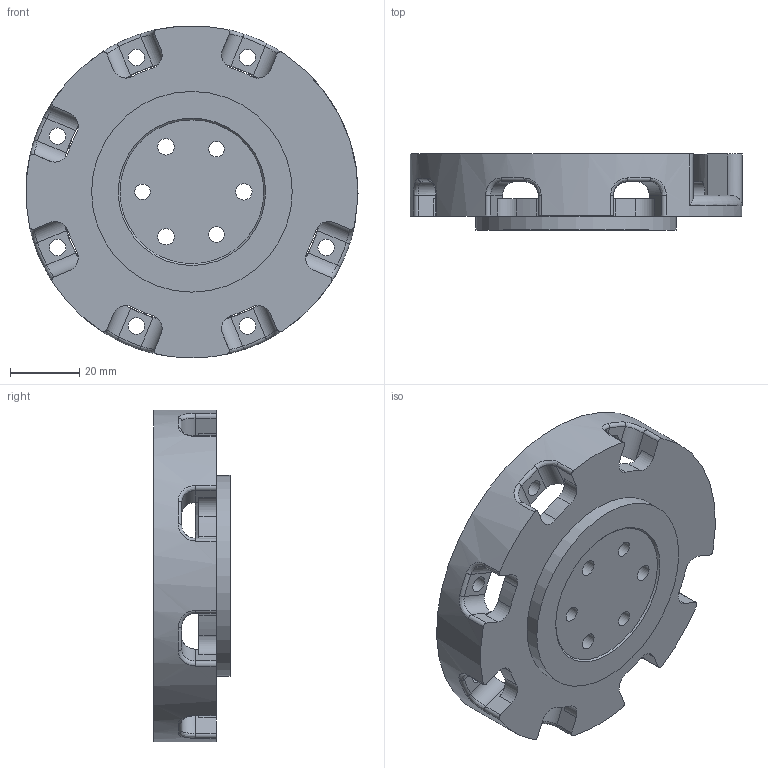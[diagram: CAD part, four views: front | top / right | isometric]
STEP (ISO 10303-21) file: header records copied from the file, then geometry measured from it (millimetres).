
FILE_DESCRIPTION(/* description */ (''),/* implementation_level */ '2;1');
FILE_NAME(/* name */ 'leg_motorPlate3 v1.step',/* time_stamp */ '2025-10-21T12:10:30-07:00',/* author */ (''),/* organization */ (''),/* preprocessor_version */ 'ST-DEVELOPER v20.1',/* originating_system */ 'Autodesk Translation Framework v14.17.0.0',/* authorisation */ '');
FILE_SCHEMA (('AUTOMOTIVE_DESIGN { 1 0 10303 214 3 1 1 }'));
Length unit declared in the file: millimetre
Products named in the file (1): leg_motorPlate3
Bounding box: 95.95 x 22 x 95.88 mm (x, y, z)
Volume: 65243 mm3; surface area: 24245.2 mm2
Topology: 1 solids, 1 shells, 122 faces, 365 edges, 233 vertices
Faces by surface type: cylinder 67, plane 29, bspline 14, torus 8, cone 4
Full cylindrical faces by diameter (mm): 4.5 x3, 4.75 x10, 58 x1, 76 x1, 96 x1
Entity records: 7239 total; most frequent: CARTESIAN_POINT 3845, ORIENTED_EDGE 730, DIRECTION 704, EDGE_CURVE 365, AXIS2_PLACEMENT_3D 274, VERTEX_POINT 233, CIRCLE 165, LINE 156
